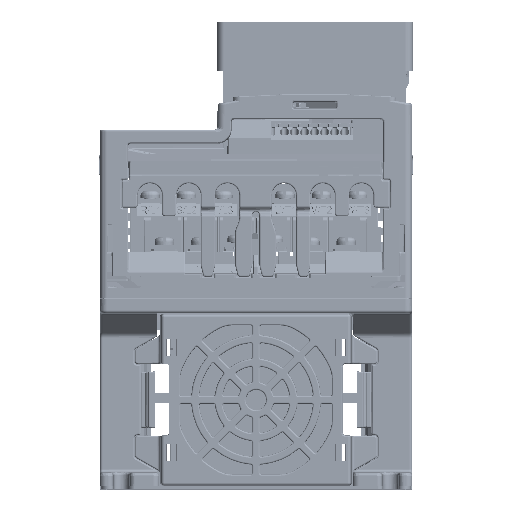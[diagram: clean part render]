
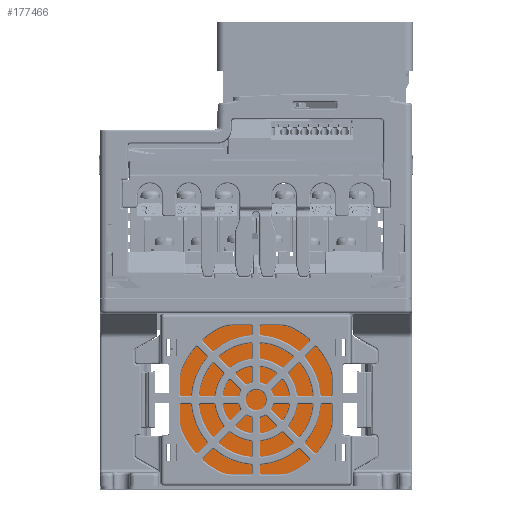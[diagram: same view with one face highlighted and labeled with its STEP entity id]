
A CAD part, top view. The second image highlights one B-rep face of the part: STEP entity #177466.
In plain terms, the highlighted planar face has unit normal (0, 0, 1).
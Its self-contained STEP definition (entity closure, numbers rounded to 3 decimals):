
#167735=CARTESIAN_POINT('',(54.5,31.1,-10.5));
#167736=DIRECTION('',(0.,0.,-1.));
#167737=DIRECTION('',(-1.,0.,0.));
#167738=AXIS2_PLACEMENT_3D('',#167735,#167736,#167737);
#167743=CARTESIAN_POINT('',(54.5,31.1,-10.5));
#167744=DIRECTION('',(0.,0.,-1.));
#167745=DIRECTION('',(1.,0.,0.));
#167746=AXIS2_PLACEMENT_3D('',#167743,#167744,#167745);
#175879=CARTESIAN_POINT('',(83.,31.1,-10.5));
#175880=VERTEX_POINT('',#175879);
#175881=CARTESIAN_POINT('',(26.,31.1,-10.5));
#175882=VERTEX_POINT('',#175881);
#177457=CARTESIAN_POINT('',(54.5,31.1,-10.5));
#177458=DIRECTION('',(0.,0.,1.));
#177459=DIRECTION('',(-1.,0.,0.));
#177460=AXIS2_PLACEMENT_3D('',#177457,#177458,#177459);
#177461=PLANE('',#177460);
#177462=ORIENTED_EDGE('',*,*,#177435,.T.);
#177463=ORIENTED_EDGE('',*,*,#177451,.T.);
#177464=EDGE_LOOP('',(#177462,#177463));
#177465=FACE_OUTER_BOUND('',#177464,.F.);
#167739=CIRCLE('',#167738,28.5);
#167747=CIRCLE('',#167746,28.5);
#177435=EDGE_CURVE('',#175882,#175880,#167739,.T.);
#177451=EDGE_CURVE('',#175880,#175882,#167747,.T.);
#177466=ADVANCED_FACE('',(#177465),#177461,.T.);
